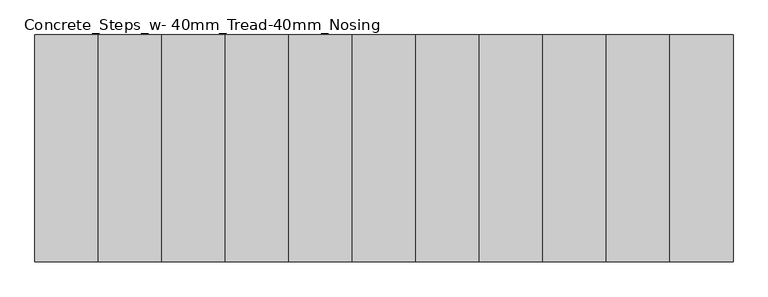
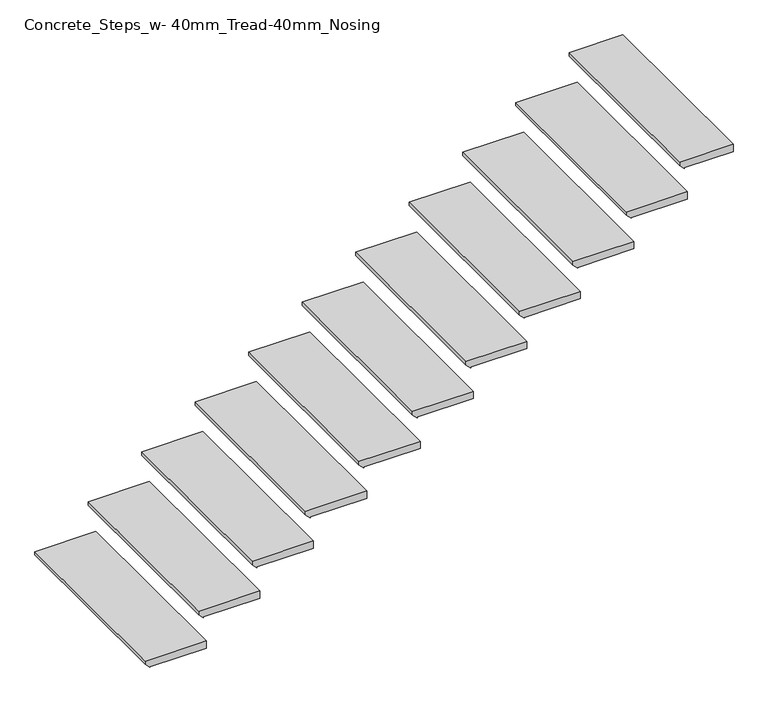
"""IFC4 building model written with IfcOpenShell, lengths in millimetres: stair flight geometry, Concrete_Steps_w- 40mm_Tread-40mm_Nosing."""

from ifc_helpers import new_model, si_unit, frame, origin, place, context, project, spatial, polyline, outline, extrude, source, transform, mapped, element, save


def concrete_steps_w_40mm_tread_40mm_nosing_e4b1fbbb(model_context):
    return source(origin(), model_context, "Body", "SweptSolid", [
        extrude(outline(polyline([(178.5714286, 35605.7942367), (178.5714286, 35285.7942367), (159.5214286, 35285.7942367), (134.1214286, 35311.1942367), (138.5714286, 35311.1942367), (138.5714286, 35605.7942367), (178.5714286, 35605.7942367)])), frame((0.0, -998.1974508, 0.0), z_axis=(0.0, 1.0, 0.0), x_axis=(0.0, 0.0, 1.0)), (0.0, 0.0, 1.0), 1000.0),
        extrude(outline(polyline([(357.1428571, 35885.7942367), (357.1428571, 35565.7942367), (338.0928571, 35565.7942367), (312.6928571, 35591.1942367), (317.1428571, 35591.1942367), (317.1428571, 35885.7942367), (357.1428571, 35885.7942367)])), frame((0.0, -998.1974508, 0.0), z_axis=(0.0, 1.0, 0.0), x_axis=(0.0, 0.0, 1.0)), (0.0, 0.0, 1.0), 1000.0),
        extrude(outline(polyline([(535.7142857, 36165.7942367), (535.7142857, 35845.7942367), (516.6642857, 35845.7942367), (491.2642857, 35871.1942367), (495.7142857, 35871.1942367), (495.7142857, 36165.7942367), (535.7142857, 36165.7942367)])), frame((0.0, -998.1974508, 0.0), z_axis=(0.0, 1.0, 0.0), x_axis=(0.0, 0.0, 1.0)), (0.0, 0.0, 1.0), 1000.0),
        extrude(outline(polyline([(714.2857143, 36445.7942367), (714.2857143, 36125.7942367), (695.2357143, 36125.7942367), (669.8357143, 36151.1942367), (674.2857143, 36151.1942367), (674.2857143, 36445.7942367), (714.2857143, 36445.7942367)])), frame((0.0, -998.1974508, 0.0), z_axis=(0.0, 1.0, 0.0), x_axis=(0.0, 0.0, 1.0)), (0.0, 0.0, 1.0), 1000.0),
        extrude(outline(polyline([(892.8571429, 36725.7942367), (892.8571429, 36405.7942367), (873.8071429, 36405.7942367), (848.4071429, 36431.1942367), (852.8571429, 36431.1942367), (852.8571429, 36725.7942367), (892.8571429, 36725.7942367)])), frame((0.0, -998.1974508, 0.0), z_axis=(0.0, 1.0, 0.0), x_axis=(0.0, 0.0, 1.0)), (0.0, 0.0, 1.0), 1000.0),
        extrude(outline(polyline([(1071.4285714, 37005.7942367), (1071.4285714, 36685.7942367), (1052.3785714, 36685.7942367), (1026.9785714, 36711.1942367), (1031.4285714, 36711.1942367), (1031.4285714, 37005.7942367), (1071.4285714, 37005.7942367)])), frame((0.0, -998.1974508, 0.0), z_axis=(0.0, 1.0, 0.0), x_axis=(0.0, 0.0, 1.0)), (0.0, 0.0, 1.0), 1000.0),
        extrude(outline(polyline([(1250.0, 37285.7942367), (1250.0, 36965.7942367), (1230.95, 36965.7942367), (1205.55, 36991.1942367), (1210.0, 36991.1942367), (1210.0, 37285.7942367), (1250.0, 37285.7942367)])), frame((0.0, -998.1974508, 0.0), z_axis=(0.0, 1.0, 0.0), x_axis=(0.0, 0.0, 1.0)), (0.0, 0.0, 1.0), 1000.0),
        extrude(outline(polyline([(1428.5714286, 37565.7942367), (1428.5714286, 37245.7942367), (1409.5214286, 37245.7942367), (1384.1214286, 37271.1942367), (1388.5714286, 37271.1942367), (1388.5714286, 37565.7942367), (1428.5714286, 37565.7942367)])), frame((0.0, -998.1974508, 0.0), z_axis=(0.0, 1.0, 0.0), x_axis=(0.0, 0.0, 1.0)), (0.0, 0.0, 1.0), 1000.0),
        extrude(outline(polyline([(1607.1428571, 37845.7942367), (1607.1428571, 37525.7942367), (1588.0928571, 37525.7942367), (1562.6928571, 37551.1942367), (1567.1428571, 37551.1942367), (1567.1428571, 37845.7942367), (1607.1428571, 37845.7942367)])), frame((0.0, -998.1974508, 0.0), z_axis=(0.0, 1.0, 0.0), x_axis=(0.0, 0.0, 1.0)), (0.0, 0.0, 1.0), 1000.0),
        extrude(outline(polyline([(1785.7142857, 38125.7942367), (1785.7142857, 37805.7942367), (1766.6642857, 37805.7942367), (1741.2642857, 37831.1942367), (1745.7142857, 37831.1942367), (1745.7142857, 38125.7942367), (1785.7142857, 38125.7942367)])), frame((0.0, -998.1974508, 0.0), z_axis=(0.0, 1.0, 0.0), x_axis=(0.0, 0.0, 1.0)), (0.0, 0.0, 1.0), 1000.0),
        extrude(outline(polyline([(1964.2857143, 38365.7942367), (1964.2857143, 38085.7942367), (1945.2357143, 38085.7942367), (1919.8357143, 38111.1942367), (1924.2857143, 38111.1942367), (1924.2857143, 38365.7942367), (1964.2857143, 38365.7942367)])), frame((0.0, -998.1974508, 0.0), z_axis=(0.0, 1.0, 0.0), x_axis=(0.0, 0.0, 1.0)), (0.0, 0.0, 1.0), 1000.0),
    ])


if __name__ == "__main__":
    model = new_model("IFC4")
    model_context = context("Model", 3, world=origin())
    ifc_project = project(units=[si_unit("LENGTHUNIT", "METRE", prefix="MILLI")], contexts=[model_context])
    site = spatial("IfcSite", under=ifc_project)
    building = spatial("IfcBuilding", under=site)
    placement = place(None, origin())
    concrete_steps_w_40mm_tread_40mm_nosing_shape = concrete_steps_w_40mm_tread_40mm_nosing_e4b1fbbb(model_context)
    element("IfcStairFlight", 1, ObjectType="Concrete_Steps_w- 40mm_Tread-40mm_Nosing", at=placement, inside=building, context=model_context, shape_type="MappedRepresentation", body=[
        mapped(concrete_steps_w_40mm_tread_40mm_nosing_shape, transform((0.0, 0.0, 0.0), x_axis=(1.0, 0.0, 0.0), y_axis=(0.0, 1.0, 0.0), z_axis=(0.0, 0.0, 1.0))),
    ])
    save(model, "model.ifc")
